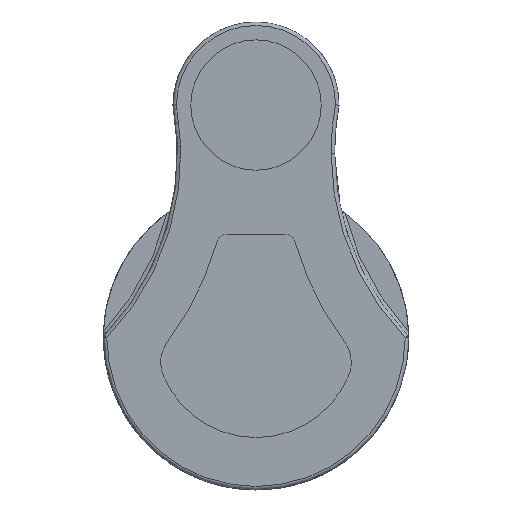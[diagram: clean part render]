
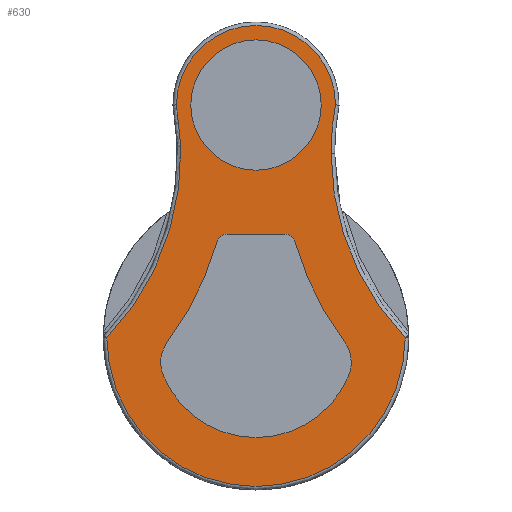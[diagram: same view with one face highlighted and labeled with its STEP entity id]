
A CAD part, top view. The second image highlights one B-rep face of the part: STEP entity #630.
In plain terms, the highlighted planar face has unit normal (0, 0, 1).
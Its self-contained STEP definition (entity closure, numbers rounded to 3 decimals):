
#115=PLANE('',#2403);
#347=CIRCLE('',#2366,14.355);
#348=CIRCLE('',#2368,5.);
#349=CIRCLE('',#2370,5.);
#350=CIRCLE('',#2372,45.211);
#351=CIRCLE('',#2374,1.5);
#352=CIRCLE('',#2377,1.5);
#353=CIRCLE('',#2379,45.211);
#354=CIRCLE('',#2381,5.);
#355=CIRCLE('',#2383,9.332);
#356=CIRCLE('',#2385,9.332);
#362=CIRCLE('',#2394,11.386);
#364=CIRCLE('',#2397,21.355);
#366=CIRCLE('',#2400,38.211);
#367=CIRCLE('',#2401,38.211);
#368=CIRCLE('',#2402,38.211);
#439=LINE('',#3702,#526);
#526=VECTOR('',#2659,1.);
#630=ADVANCED_FACE('',(#752,#753,#754),#115,.F.);
#752=FACE_BOUND('',#809,.T.);
#753=FACE_BOUND('',#810,.T.);
#754=FACE_BOUND('',#811,.T.);
#809=EDGE_LOOP('',(#1109,#1110));
#810=EDGE_LOOP('',(#1111,#1112,#1113,#1114,#1115));
#811=EDGE_LOOP('',(#1116,#1117,#1118,#1119,#1120,#1121,#1122,#1123,#1124));
#1109=ORIENTED_EDGE('',*,*,#1923,.F.);
#1110=ORIENTED_EDGE('',*,*,#1921,.F.);
#1111=ORIENTED_EDGE('',*,*,#1937,.T.);
#1112=ORIENTED_EDGE('',*,*,#1938,.T.);
#1113=ORIENTED_EDGE('',*,*,#1933,.T.);
#1114=ORIENTED_EDGE('',*,*,#1939,.T.);
#1115=ORIENTED_EDGE('',*,*,#1935,.T.);
#1116=ORIENTED_EDGE('',*,*,#1919,.T.);
#1117=ORIENTED_EDGE('',*,*,#1917,.F.);
#1118=ORIENTED_EDGE('',*,*,#1915,.T.);
#1119=ORIENTED_EDGE('',*,*,#1913,.F.);
#1120=ORIENTED_EDGE('',*,*,#1911,.T.);
#1121=ORIENTED_EDGE('',*,*,#1909,.F.);
#1122=ORIENTED_EDGE('',*,*,#1907,.T.);
#1123=ORIENTED_EDGE('',*,*,#1905,.T.);
#1124=ORIENTED_EDGE('',*,*,#1902,.F.);
#1661=VERTEX_POINT('',#3681);
#1662=VERTEX_POINT('',#3682);
#1663=VERTEX_POINT('',#3687);
#1664=VERTEX_POINT('',#3691);
#1665=VERTEX_POINT('',#3695);
#1666=VERTEX_POINT('',#3699);
#1667=VERTEX_POINT('',#3703);
#1668=VERTEX_POINT('',#3707);
#1669=VERTEX_POINT('',#3711);
#1670=VERTEX_POINT('',#3717);
#1671=VERTEX_POINT('',#3719);
#1678=VERTEX_POINT('',#3766);
#1679=VERTEX_POINT('',#3778);
#1680=VERTEX_POINT('',#3782);
#1681=VERTEX_POINT('',#3784);
#1682=VERTEX_POINT('',#3788);
#1902=EDGE_CURVE('',#1661,#1662,#347,.T.);
#1905=EDGE_CURVE('',#1663,#1662,#348,.T.);
#1907=EDGE_CURVE('',#1664,#1663,#349,.T.);
#1909=EDGE_CURVE('',#1664,#1665,#350,.T.);
#1911=EDGE_CURVE('',#1666,#1665,#351,.T.);
#1913=EDGE_CURVE('',#1666,#1667,#439,.T.);
#1915=EDGE_CURVE('',#1668,#1667,#352,.T.);
#1917=EDGE_CURVE('',#1668,#1669,#353,.T.);
#1919=EDGE_CURVE('',#1661,#1669,#354,.T.);
#1921=EDGE_CURVE('',#1670,#1671,#355,.T.);
#1923=EDGE_CURVE('',#1671,#1670,#356,.T.);
#1933=EDGE_CURVE('',#1678,#1679,#362,.T.);
#1935=EDGE_CURVE('',#1681,#1680,#364,.T.);
#1937=EDGE_CURVE('',#1680,#1682,#366,.T.);
#1938=EDGE_CURVE('',#1682,#1678,#367,.T.);
#1939=EDGE_CURVE('',#1679,#1681,#368,.T.);
#2366=AXIS2_PLACEMENT_3D('',#3680,#2633,#2634);
#2368=AXIS2_PLACEMENT_3D('',#3686,#2639,#2640);
#2370=AXIS2_PLACEMENT_3D('',#3690,#2644,#2645);
#2372=AXIS2_PLACEMENT_3D('',#3694,#2649,#2650);
#2374=AXIS2_PLACEMENT_3D('',#3698,#2654,#2655);
#2377=AXIS2_PLACEMENT_3D('',#3706,#2663,#2664);
#2379=AXIS2_PLACEMENT_3D('',#3710,#2668,#2669);
#2381=AXIS2_PLACEMENT_3D('',#3714,#2673,#2674);
#2383=AXIS2_PLACEMENT_3D('',#3718,#2678,#2679);
#2385=AXIS2_PLACEMENT_3D('',#3722,#2683,#2684);
#2394=AXIS2_PLACEMENT_3D('',#3779,#2701,#2702);
#2397=AXIS2_PLACEMENT_3D('',#3783,#2707,#2708);
#2400=AXIS2_PLACEMENT_3D('',#3787,#2713,#2714);
#2401=AXIS2_PLACEMENT_3D('',#3789,#2715,#2716);
#2402=AXIS2_PLACEMENT_3D('',#3790,#2717,#2718);
#2403=AXIS2_PLACEMENT_3D('',#3791,#2719,#2720);
#2633=DIRECTION('',(0.,0.,1.));
#2634=DIRECTION('',(-1.,0.,0.));
#2639=DIRECTION('',(0.,0.,-1.));
#2640=DIRECTION('',(-1.,0.,0.));
#2644=DIRECTION('',(0.,0.,-1.));
#2645=DIRECTION('',(-1.,0.,0.));
#2649=DIRECTION('',(0.,0.,-1.));
#2650=DIRECTION('',(-1.,0.,0.));
#2654=DIRECTION('',(0.,0.,-1.));
#2655=DIRECTION('',(-1.,0.,0.));
#2659=DIRECTION('',(-1.,0.,0.));
#2663=DIRECTION('',(0.,0.,-1.));
#2664=DIRECTION('',(-1.,0.,0.));
#2668=DIRECTION('',(0.,0.,-1.));
#2669=DIRECTION('',(-1.,0.,0.));
#2673=DIRECTION('',(0.,0.,-1.));
#2674=DIRECTION('',(-1.,0.,0.));
#2678=DIRECTION('',(0.,0.,1.));
#2679=DIRECTION('',(-1.,0.,0.));
#2683=DIRECTION('',(0.,0.,1.));
#2684=DIRECTION('',(-1.,0.,0.));
#2701=DIRECTION('',(0.,0.,1.));
#2702=DIRECTION('',(-1.,0.,0.));
#2707=DIRECTION('',(0.,0.,1.));
#2708=DIRECTION('',(-1.,0.,0.));
#2713=DIRECTION('',(0.,0.,-1.));
#2714=DIRECTION('',(-1.,0.,0.));
#2715=DIRECTION('',(0.,0.,-1.));
#2716=DIRECTION('',(-1.,0.,0.));
#2717=DIRECTION('',(0.,0.,-1.));
#2718=DIRECTION('',(-1.,0.,0.));
#2719=DIRECTION('',(0.,0.,-1.));
#2720=DIRECTION('',(-1.,0.,0.));
#3680=CARTESIAN_POINT('',(0.,-18.92,10.25));
#3681=CARTESIAN_POINT('',(-13.251,-24.441,10.25));
#3682=CARTESIAN_POINT('',(13.251,-24.441,10.25));
#3686=CARTESIAN_POINT('',(8.636,-22.518,10.25));
#3687=CARTESIAN_POINT('',(13.636,-22.518,10.25));
#3690=CARTESIAN_POINT('',(8.636,-22.518,10.25));
#3691=CARTESIAN_POINT('',(12.651,-19.539,10.25));
#3694=CARTESIAN_POINT('',(48.961,7.399,10.25));
#3695=CARTESIAN_POINT('',(5.55,-5.233,10.25));
#3698=CARTESIAN_POINT('',(4.11,-5.652,10.25));
#3699=CARTESIAN_POINT('',(4.11,-4.152,10.25));
#3702=CARTESIAN_POINT('',(24.48,-4.152,10.25));
#3703=CARTESIAN_POINT('',(-4.11,-4.152,10.25));
#3706=CARTESIAN_POINT('',(-4.11,-5.652,10.25));
#3707=CARTESIAN_POINT('',(-5.55,-5.233,10.25));
#3710=CARTESIAN_POINT('',(-48.961,7.399,10.25));
#3711=CARTESIAN_POINT('',(-12.651,-19.539,10.25));
#3714=CARTESIAN_POINT('',(-8.636,-22.518,10.25));
#3717=CARTESIAN_POINT('',(-9.332,14.321,10.25));
#3718=CARTESIAN_POINT('',(0.,14.321,10.25));
#3719=CARTESIAN_POINT('',(9.332,14.321,10.25));
#3722=CARTESIAN_POINT('',(0.,14.321,10.25));
#3766=CARTESIAN_POINT('',(11.386,14.344,10.25));
#3778=CARTESIAN_POINT('',(-11.386,14.344,10.25));
#3779=CARTESIAN_POINT('',(0.,14.321,10.25));
#3782=CARTESIAN_POINT('',(21.355,-19.021,10.25));
#3783=CARTESIAN_POINT('',(0.,-18.92,10.25));
#3784=CARTESIAN_POINT('',(-21.355,-19.021,10.25));
#3787=CARTESIAN_POINT('',(48.961,7.399,10.25));
#3788=CARTESIAN_POINT('',(10.75,7.399,10.25));
#3789=CARTESIAN_POINT('',(48.961,7.399,10.25));
#3790=CARTESIAN_POINT('',(-48.961,7.399,10.25));
#3791=CARTESIAN_POINT('',(24.48,10.86,10.25));
